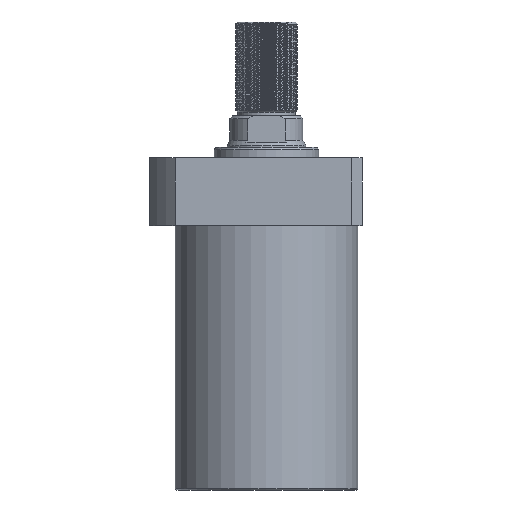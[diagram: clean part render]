
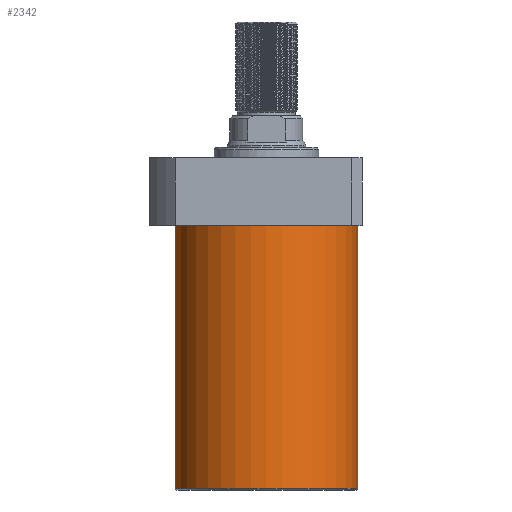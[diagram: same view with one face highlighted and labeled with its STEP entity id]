
A CAD part, front view. The second image highlights one B-rep face of the part: STEP entity #2342.
In plain terms, the highlighted cylindrical face has radius 52.5 mm (diameter 105 mm), a partial arc.
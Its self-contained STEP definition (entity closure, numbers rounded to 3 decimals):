
#122 = CYLINDRICAL_SURFACE ( 'NONE', #7672, 52.5 ) ;
#597 = CARTESIAN_POINT ( 'NONE',  ( 52.5, 0., -171.5 ) ) ;
#757 = CARTESIAN_POINT ( 'NONE',  ( -52.5, 0., -170.5 ) ) ;
#798 = EDGE_CURVE ( 'NONE', #1711, #2837, #1370, .T. ) ;
#1370 = CIRCLE ( 'NONE', #7092, 52.5 ) ;
#1711 = VERTEX_POINT ( 'NONE', #757 ) ;
#2044 = VECTOR ( 'NONE', #5302, 1000. ) ;
#2074 = CIRCLE ( 'NONE', #4667, 52.5 ) ;
#2342 = ADVANCED_FACE ( 'NONE', ( #5292 ), #122, .T. ) ;
#2642 = ORIENTED_EDGE ( 'NONE', *, *, #3245, .T. ) ;
#2664 = DIRECTION ( 'NONE',  ( 1., 0., 0. ) ) ;
#2762 = DIRECTION ( 'NONE',  ( 0., 0., -1. ) ) ;
#2837 = VERTEX_POINT ( 'NONE', #7625 ) ;
#2868 = VECTOR ( 'NONE', #5781, 1000. ) ;
#3245 = EDGE_CURVE ( 'NONE', #2837, #6606, #6320, .T. ) ;
#3480 = CARTESIAN_POINT ( 'NONE',  ( 52.5, 0., -19.5 ) ) ;
#3510 = EDGE_CURVE ( 'NONE', #1711, #3585, #5721, .T. ) ;
#3523 = CARTESIAN_POINT ( 'NONE',  ( 0., 0., -170.5 ) ) ;
#3585 = VERTEX_POINT ( 'NONE', #6676 ) ;
#3691 = ORIENTED_EDGE ( 'NONE', *, *, #3510, .F. ) ;
#3717 = EDGE_LOOP ( 'NONE', ( #3691, #4121, #2642, #5362 ) ) ;
#3784 = DIRECTION ( 'NONE',  ( 0., 0., 1. ) ) ;
#4121 = ORIENTED_EDGE ( 'NONE', *, *, #798, .T. ) ;
#4667 = AXIS2_PLACEMENT_3D ( 'NONE', #6653, #2762, #7290 ) ;
#5225 = DIRECTION ( 'NONE',  ( 0., 0., 1. ) ) ;
#5292 = FACE_OUTER_BOUND ( 'NONE', #3717, .T. ) ;
#5302 = DIRECTION ( 'NONE',  ( 0., 0., 1. ) ) ;
#5362 = ORIENTED_EDGE ( 'NONE', *, *, #5606, .T. ) ;
#5606 = EDGE_CURVE ( 'NONE', #6606, #3585, #2074, .T. ) ;
#5721 = LINE ( 'NONE', #5968, #2044 ) ;
#5781 = DIRECTION ( 'NONE',  ( 0., 0., 1. ) ) ;
#5968 = CARTESIAN_POINT ( 'NONE',  ( -52.5, 0., -171.5 ) ) ;
#6320 = LINE ( 'NONE', #597, #2868 ) ;
#6529 = CARTESIAN_POINT ( 'NONE',  ( 0., 0., -171.5 ) ) ;
#6606 = VERTEX_POINT ( 'NONE', #3480 ) ;
#6653 = CARTESIAN_POINT ( 'NONE',  ( 0., 0., -19.5 ) ) ;
#6676 = CARTESIAN_POINT ( 'NONE',  ( -52.5, 0., -19.5 ) ) ;
#7092 = AXIS2_PLACEMENT_3D ( 'NONE', #3523, #3784, #7647 ) ;
#7290 = DIRECTION ( 'NONE',  ( 1., 0., 0. ) ) ;
#7625 = CARTESIAN_POINT ( 'NONE',  ( 52.5, 0., -170.5 ) ) ;
#7647 = DIRECTION ( 'NONE',  ( -1., 0., 0. ) ) ;
#7672 = AXIS2_PLACEMENT_3D ( 'NONE', #6529, #5225, #2664 ) ;
